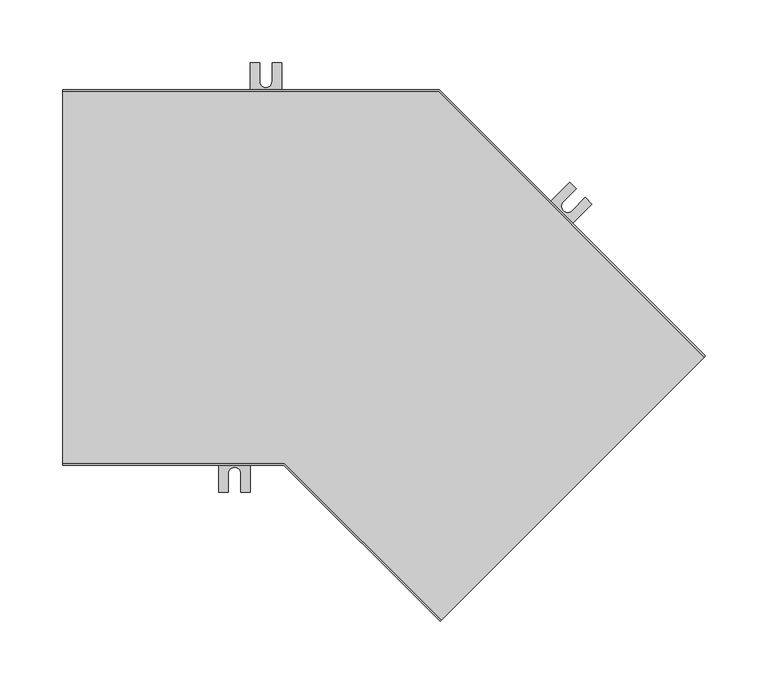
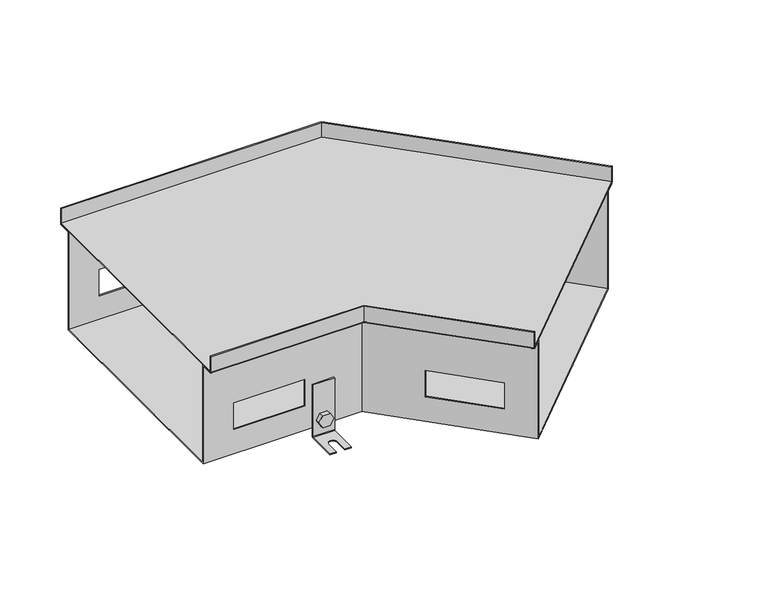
"""IFC4 building model written with IfcOpenShell, lengths in millimetres: proxy geometry, TECHNO_Угловой элемент_KVU : 300_140_135°."""

from ifc_helpers import new_model, si_unit, point, frame, frame_2d, origin, place, context, project, spatial, polyline, circle_curve, ellipse_curve, trimmed, segment, composite_curve, outline, extrude, source, transform, mapped, element, save
from ifc_brep_helpers import plane_surface, cylinder_surface, revolved_surface, advanced_brep


def mechanical_equipment_b19bae29(model_context):
    return source(origin(), model_context, "Body", "SolidModel", [
        extrude(outline(composite_curve([segment(trimmed(circle_curve(frame_2d((0.0, -7.5000001)), 7.5), [point((0.0, -15.0))], [point((0.0, 0.0))], False, "CARTESIAN"), True, "CONTINUOUS"), segment(trimmed(circle_curve(frame_2d((0.0, -7.5000001)), 7.5), [point((0.0, 0.0))], [point((0.0, -15.0))], False, "CARTESIAN"), True, "CONTINUOUS")], self_intersect=False)), frame((361.7404725, -31.0900467, -130.5), z_axis=(0.7071067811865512, 0.7071067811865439, 0.0), x_axis=(0.0, 0.0, 1.0)), (0.0, 0.0, 1.0), 1.5),
        extrude(outline(polyline([(0.0, 0.0), (8.660254, 1e-07), (12.990381, -7.5), (8.660254, -15.0), (0.0, -15.0), (-4.3301271, -7.4999999), (0.0, 0.0)])), frame((345.8586746, -24.1177942, -130.5), z_axis=(0.7071067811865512, 0.7071067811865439, 0.0), x_axis=(0.3535533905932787, -0.3535533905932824, -0.8660254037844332)), (0.0, 0.0, 1.0), 5.1),
        advanced_brep(
        [(364.4274783, -35.4741087, -85.5), (364.4274783, -35.4741087, -148.5), (363.8617928, -36.0397941, -149.3), (340.5272691, -59.3743179, -149.3), (340.5272691, -59.3743179, -150.5), (363.8617928, -36.0397941, -150.5), (365.2760064, -34.6255806, -148.5), (365.2760064, -34.6255806, -85.5), (346.7498087, -17.7964392, -85.5), (347.5983369, -16.947911, -85.5), (347.5983369, -16.947911, -148.5), (346.1841233, -18.3621246, -150.5), (322.8495995, -41.6966484, -150.5), (322.8495995, -41.6966484, -149.3), (346.1841233, -18.3621246, -149.3), (346.7498087, -17.7964392, -148.5), (328.1529004, -46.9999492, -149.3), (338.7595021, -36.3933475, -149.3), (345.8305699, -43.4644153, -149.3), (335.2239682, -54.0710171, -149.3), (335.2239682, -54.0710171, -150.5), (328.1529004, -46.9999492, -150.5), (345.8305699, -43.4644153, -150.5), (338.7595021, -36.3933475, -150.5)],
        [
            (0, 1),
            (1, 2, circle_curve(frame((363.8617928, -36.0397941, -148.5), z_axis=(-0.7071067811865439, 0.7071067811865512, 0.0), x_axis=(-0.7071067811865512, -0.7071067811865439, 0.0)), 0.8)),
            (2, 3),
            (3, 4),
            (4, 5),
            (5, 6, circle_curve(frame((363.8617928, -36.0397941, -148.5), z_axis=(0.7071067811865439, -0.7071067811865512, 0.0), x_axis=(-0.7071067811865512, -0.7071067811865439, 0.0)), 2.0)),
            (6, 7),
            (7, 0),
            (8, 9),
            (9, 10),
            (10, 11, circle_curve(frame((346.1841233, -18.3621246, -148.5), z_axis=(-0.7071067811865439, 0.7071067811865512, 0.0), x_axis=(-0.7071067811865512, -0.7071067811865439, 0.0)), 2.0)),
            (11, 12),
            (12, 13),
            (13, 14),
            (14, 15, circle_curve(frame((346.1841233, -18.3621246, -148.5), z_axis=(0.7071067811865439, -0.7071067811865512, 0.0), x_axis=(-0.7071067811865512, -0.7071067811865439, 0.0)), 0.8)),
            (15, 8),
            (0, 8),
            (15, 1),
            (14, 2),
            (13, 16),
            (16, 17),
            (17, 18, circle_curve(frame((342.295036, -39.9288814, -149.3), z_axis=(0.0, 0.0, -1.0), x_axis=(0.7071067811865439, -0.7071067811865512, 0.0)), 5.0)),
            (18, 19),
            (19, 3),
            (19, 20),
            (20, 4),
            (12, 21),
            (21, 16),
            (20, 22),
            (22, 23, circle_curve(frame((342.295036, -39.9288814, -150.5), z_axis=(0.0, 0.0, 1.0), x_axis=(0.7071067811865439, -0.7071067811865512, 0.0)), 5.0)),
            (23, 21),
            (11, 5),
            (10, 6),
            (9, 7),
            (23, 17),
            (18, 22),
        ],
        [
            plane_surface(frame((364.4274783, -35.4741087, -85.5), z_axis=(0.7071067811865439, -0.7071067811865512, 0.0), x_axis=(0.0, 0.0, -1.0))),
            plane_surface(frame((346.7498087, -17.7964392, -85.5), z_axis=(-0.7071067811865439, 0.7071067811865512, 0.0), x_axis=(0.0, 0.0, 1.0))),
            plane_surface(frame((364.4274783, -35.4741087, -85.5), z_axis=(-0.7071067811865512, -0.7071067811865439, 0.0), x_axis=(-0.7071067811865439, 0.7071067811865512, 0.0))),
            revolved_surface(polyline([(345.61843787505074, -18.92781002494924, -148.5), (363.29610742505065, -36.605479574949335, -148.5)]), (346.1841233, -18.3621246, -148.5), (-0.7071067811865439, 0.7071067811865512, 0.0)),
            plane_surface(frame((363.8617928, -36.0397941, -149.3), z_axis=(0.0, 0.0, 1.0), x_axis=(-0.7071067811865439, 0.7071067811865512, 0.0))),
            plane_surface(frame((340.5272691, -59.3743179, -149.3), z_axis=(-0.7071067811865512, -0.7071067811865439, 0.0), x_axis=(-0.7071067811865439, 0.7071067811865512, 0.0))),
            plane_surface(frame((340.5272691, -59.3743179, -150.5), z_axis=(0.0, 0.0, -1.0), x_axis=(-0.7071067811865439, 0.7071067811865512, 0.0))),
            cylinder_surface(frame((346.1841233, -18.3621246, -148.5), z_axis=(0.7071067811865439, -0.7071067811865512, 0.0), x_axis=(-0.7071067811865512, -0.7071067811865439, 0.0)), 2.0),
            plane_surface(frame((365.2760064, -34.6255806, -148.5), z_axis=(0.7071067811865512, 0.7071067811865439, 0.0), x_axis=(-0.7071067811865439, 0.7071067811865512, 0.0))),
            plane_surface(frame((365.2760064, -34.6255806, -85.5), z_axis=(0.0, 0.0, 1.0), x_axis=(-0.7071067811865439, 0.7071067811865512, 0.0))),
            plane_surface(frame((338.7595021, -36.3933475, -149.3), z_axis=(0.7071067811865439, -0.7071067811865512, 0.0), x_axis=(0.0, 0.0, -1.0))),
            plane_surface(frame((335.2239682, -54.0710171, -149.3), z_axis=(-0.707106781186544, 0.7071067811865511, 0.0), x_axis=(0.0, 0.0, -1.0))),
            revolved_surface(polyline([(345.8305699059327, -43.46441530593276, -149.3), (345.8305699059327, -43.46441530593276, -150.5)]), (342.295036, -39.9288814, -150.5), (0.0, 0.0, 1.0)),
        ],
        [
            (0, [[1, 2, 3, 4, 5, 6, 7, 8]]),
            (1, [[9, 10, 11, 12, 13, 14, 15, 16]]),
            (2, [[-1, 17, -16, 18]]),
            (3, [[-2, -18, -15, 19]]),
            (4, [[-3, -19, -14, 20, 21, 22, 23, 24]]),
            (5, [[-4, -24, 25, 26]]),
            (5, [[-13, 27, 28, -20]]),
            (6, [[-5, -26, 29, 30, 31, -27, -12, 32]]),
            (7, [[-6, -32, -11, 33]]),
            (8, [[-7, -33, -10, 34]]),
            (9, [[-8, -34, -9, -17]]),
            (10, [[35, -21, -28, -31]]),
            (11, [[36, -29, -25, -23]]),
            (12, [[-35, -30, -36, -22]]),
        ],
    ),
        extrude(outline(composite_curve([segment(trimmed(circle_curve(frame_2d((0.0, -7.5)), 7.5), [point((0.0, -15.0))], [point((0.0, 0.0))], False, "CARTESIAN"), True, "CONTINUOUS"), segment(trimmed(circle_curve(frame_2d((0.0, -7.5)), 7.5), [point((0.0, 0.0))], [point((0.0, -15.0))], False, "CARTESIAN"), True, "CONTINUOUS")], self_intersect=False)), frame((383.165808, 46.9038313, -130.5), z_axis=(0.7071067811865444, 0.7071067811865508, 0.0), x_axis=(0.0, 0.0, -1.0)), (0.0, 0.0, 1.0), 1.5),
        extrude(outline(polyline([(0.0, 0.0), (4.330127, -7.5), (0.0, -15.0), (-8.660254, -15.0), (-12.990381, -7.5), (-8.6602541, 0.0), (0.0, 0.0)])), frame((396.5020215, 37.3859944, -130.5), z_axis=(0.7071067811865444, 0.7071067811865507, 0.0), x_axis=(0.35355339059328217, -0.35355339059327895, 0.8660254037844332)), (0.0, 0.0, 1.0), 5.1),
        advanced_brep(
        [(381.5394624, 52.3485535, -85.5), (381.5394624, 52.3485535, -148.5), (382.1051478, 52.9142389, -149.3), (405.4396716, 76.2487627, -149.3), (405.4396716, 76.2487627, -150.5), (382.1051478, 52.9142389, -150.5), (380.6909342, 51.5000254, -148.5), (380.6909342, 51.5000254, -85.5), (399.2171319, 34.670884, -85.5), (398.3686038, 33.8223559, -85.5), (398.3686038, 33.8223559, -148.5), (399.7828173, 35.2365694, -150.5), (423.1173411, 58.5710932, -150.5), (423.1173411, 58.5710932, -149.3), (399.7828173, 35.2365694, -149.3), (399.2171319, 34.670884, -148.5), (417.8140403, 63.8743941, -149.3), (407.2074385, 53.2677923, -149.3), (400.1363707, 60.3388601, -149.3), (410.7429724, 70.9454619, -149.3), (410.7429724, 70.9454619, -150.5), (417.8140403, 63.8743941, -150.5), (400.1363707, 60.3388601, -150.5), (407.2074385, 53.2677923, -150.5)],
        [
            (0, 1),
            (1, 2, circle_curve(frame((382.1051478, 52.9142389, -148.5), z_axis=(0.7071067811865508, -0.7071067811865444, 0.0), x_axis=(0.7071067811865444, 0.7071067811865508, 0.0)), 0.8)),
            (2, 3),
            (3, 4),
            (4, 5),
            (5, 6, circle_curve(frame((382.1051478, 52.9142389, -148.5), z_axis=(-0.7071067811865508, 0.7071067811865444, 0.0), x_axis=(0.7071067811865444, 0.7071067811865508, 0.0)), 2.0)),
            (6, 7),
            (7, 0),
            (8, 9),
            (9, 10),
            (10, 11, circle_curve(frame((399.7828173, 35.2365694, -148.5), z_axis=(0.7071067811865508, -0.7071067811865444, 0.0), x_axis=(0.7071067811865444, 0.7071067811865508, 0.0)), 2.0)),
            (11, 12),
            (12, 13),
            (13, 14),
            (14, 15, circle_curve(frame((399.7828173, 35.2365694, -148.5), z_axis=(-0.7071067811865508, 0.7071067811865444, 0.0), x_axis=(0.7071067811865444, 0.7071067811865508, 0.0)), 0.8)),
            (15, 8),
            (0, 8),
            (15, 1),
            (14, 2),
            (13, 16),
            (16, 17),
            (17, 18, circle_curve(frame((403.6719046, 56.8033262, -149.3), z_axis=(0.0, 0.0, -1.0), x_axis=(-0.7071067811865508, 0.7071067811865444, 0.0)), 5.0)),
            (18, 19),
            (19, 3),
            (19, 20),
            (20, 4),
            (12, 21),
            (21, 16),
            (20, 22),
            (22, 23, circle_curve(frame((403.6719046, 56.8033262, -150.5), z_axis=(0.0, 0.0, 1.0), x_axis=(-0.7071067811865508, 0.7071067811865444, 0.0)), 5.0)),
            (23, 21),
            (11, 5),
            (10, 6),
            (9, 7),
            (23, 17),
            (18, 22),
        ],
        [
            plane_surface(frame((381.5394624, 52.3485535, -85.5), z_axis=(-0.7071067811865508, 0.7071067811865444, 0.0), x_axis=(0.0, 0.0, -1.0))),
            plane_surface(frame((399.2171319, 34.670884, -85.5), z_axis=(0.7071067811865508, -0.7071067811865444, 0.0), x_axis=(0.0, 0.0, 1.0))),
            plane_surface(frame((381.5394624, 52.3485535, -85.5), z_axis=(0.7071067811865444, 0.7071067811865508, 0.0), x_axis=(0.7071067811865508, -0.7071067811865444, 0.0))),
            revolved_surface(polyline([(400.3485027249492, 35.80225482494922, -148.5), (382.6708332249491, 53.47992432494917, -148.5)]), (399.7828173, 35.2365694, -148.5), (0.7071067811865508, -0.7071067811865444, 0.0)),
            plane_surface(frame((382.1051478, 52.9142389, -149.3), z_axis=(0.0, 0.0, 1.0000000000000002), x_axis=(0.7071067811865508, -0.7071067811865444, 0.0))),
            plane_surface(frame((405.4396716, 76.2487627, -149.3), z_axis=(0.7071067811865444, 0.7071067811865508, 0.0), x_axis=(0.7071067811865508, -0.7071067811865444, 0.0))),
            plane_surface(frame((405.4396716, 76.2487627, -150.5), z_axis=(0.0, 0.0, -1.0000000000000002), x_axis=(0.7071067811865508, -0.7071067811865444, 0.0))),
            cylinder_surface(frame((399.7828173, 35.2365694, -148.5), z_axis=(-0.7071067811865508, 0.7071067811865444, 0.0), x_axis=(0.7071067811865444, 0.7071067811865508, 0.0)), 2.0),
            plane_surface(frame((380.6909342, 51.5000254, -148.5), z_axis=(-0.7071067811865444, -0.7071067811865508, 0.0), x_axis=(0.7071067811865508, -0.7071067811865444, 0.0))),
            plane_surface(frame((380.6909342, 51.5000254, -85.5), z_axis=(0.0, 0.0, 1.0000000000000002), x_axis=(0.7071067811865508, -0.7071067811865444, 0.0))),
            plane_surface(frame((407.2074385, 53.2677923, -149.3), z_axis=(-0.7071067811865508, 0.7071067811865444, 0.0), x_axis=(0.0, 0.0, -1.0))),
            plane_surface(frame((410.7429724, 70.9454619, -149.3), z_axis=(0.7071067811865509, -0.7071067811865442, 0.0), x_axis=(0.0, 0.0, -1.0))),
            revolved_surface(polyline([(400.13637069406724, 60.338860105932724, -149.3), (400.13637069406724, 60.338860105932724, -150.5)]), (403.6719046, 56.8033262, -150.5), (0.0, 0.0, 1.0)),
        ],
        [
            (0, [[1, 2, 3, 4, 5, 6, 7, 8]]),
            (1, [[9, 10, 11, 12, 13, 14, 15, 16]]),
            (2, [[-1, 17, -16, 18]]),
            (3, [[-2, -18, -15, 19]]),
            (4, [[-3, -19, -14, 20, 21, 22, 23, 24]]),
            (5, [[-4, -24, 25, 26]]),
            (5, [[-13, 27, 28, -20]]),
            (6, [[-5, -26, 29, 30, 31, -27, -12, 32]]),
            (7, [[-6, -32, -11, 33]]),
            (8, [[-7, -33, -10, 34]]),
            (9, [[-8, -34, -9, -17]]),
            (10, [[35, -21, -28, -31]]),
            (11, [[36, -29, -25, -23]]),
            (12, [[-35, -30, -36, -22]]),
        ],
    ),
        extrude(outline(composite_curve([segment(trimmed(circle_curve(frame_2d((-130.5, 162.5)), 7.5), [point((-130.5, 155.0))], [point((-130.5, 170.0))], False, "CARTESIAN"), True, "CONTINUOUS"), segment(trimmed(circle_curve(frame_2d((-130.5, 162.5)), 7.5), [point((-130.5, 170.0))], [point((-130.5, 155.0))], False, "CARTESIAN"), True, "CONTINUOUS")], self_intersect=False)), frame((0.0, 135.2, 0.0), z_axis=(0.0, 1.0, 0.0), x_axis=(0.0, 0.0, 1.0)), (0.0, 0.0, 1.0), 1.5),
        extrude(outline(polyline([(-130.5, 153.839746), (-138.0, 158.169873), (-138.0, 166.830127), (-130.5, 171.160254), (-123.0, 166.830127), (-123.0, 158.169873), (-130.5, 153.839746)])), frame((0.0, 137.9, 0.0), z_axis=(0.0, 1.0, 0.0), x_axis=(0.0, 0.0, 1.0)), (0.0, 0.0, 1.0), 5.1),
        advanced_brep(
        [(175.0, 137.9, -85.5), (175.0, 136.7, -85.5), (175.0, 136.7, -148.5), (175.0, 138.7, -150.5), (175.0, 171.7, -150.5), (175.0, 171.7, -149.3), (175.0, 138.7, -149.3), (175.0, 137.9, -148.5), (150.0, 137.9, -85.5), (150.0, 137.9, -148.5), (150.0, 138.7, -149.3), (150.0, 171.7, -149.3), (150.0, 171.7, -150.5), (150.0, 138.7, -150.5), (150.0, 136.7, -148.5), (150.0, 136.7, -85.5), (167.5, 171.7, -149.3), (167.5, 156.7, -149.3), (157.5, 156.7, -149.3), (157.5, 171.7, -149.3), (157.5, 171.7, -150.5), (167.5, 171.7, -150.5), (157.5, 156.7, -150.5), (167.5, 156.7, -150.5)],
        [
            (0, 1),
            (1, 2),
            (2, 3, circle_curve(frame((175.0, 138.7, -148.5), z_axis=(1.0, 0.0, 0.0), x_axis=(0.0, 1.0, 0.0)), 2.0)),
            (3, 4),
            (4, 5),
            (5, 6),
            (6, 7, circle_curve(frame((175.0, 138.7, -148.5), z_axis=(-1.0, 0.0, 0.0), x_axis=(0.0, 1.0, 0.0)), 0.8)),
            (7, 0),
            (8, 9),
            (9, 10, circle_curve(frame((150.0, 138.7, -148.5), z_axis=(1.0, 0.0, 0.0), x_axis=(0.0, 1.0, 0.0)), 0.8)),
            (10, 11),
            (11, 12),
            (12, 13),
            (13, 14, circle_curve(frame((150.0, 138.7, -148.5), z_axis=(-1.0, 0.0, 0.0), x_axis=(0.0, 1.0, 0.0)), 2.0)),
            (14, 15),
            (15, 8),
            (7, 9),
            (8, 0),
            (6, 10),
            (5, 16),
            (16, 17),
            (17, 18, circle_curve(frame((162.5, 156.7, -149.3), z_axis=(0.0, 0.0, -1.0), x_axis=(1.0, 0.0, 0.0)), 5.0)),
            (18, 19),
            (19, 11),
            (19, 20),
            (20, 12),
            (4, 21),
            (21, 16),
            (3, 13),
            (20, 22),
            (22, 23, circle_curve(frame((162.5, 156.7, -150.5), z_axis=(0.0, 0.0, 1.0), x_axis=(1.0, 0.0, 0.0)), 5.0)),
            (23, 21),
            (2, 14),
            (1, 15),
            (18, 22),
            (23, 17),
        ],
        [
            plane_surface(frame((175.0, 137.9, -85.5), z_axis=(1.0, 0.0, 0.0), x_axis=(0.0, 0.0, -1.0))),
            plane_surface(frame((150.0, 137.9, -85.5), z_axis=(-1.0, 0.0, 0.0), x_axis=(0.0, 0.0, 1.0))),
            plane_surface(frame((175.0, 137.9, -85.5), z_axis=(0.0, 1.0, 0.0), x_axis=(-1.0, 0.0, 0.0))),
            revolved_surface(polyline([(150.0, 139.5, -148.5), (175.0, 139.5, -148.5)]), (150.0, 138.7, -148.5), (-1.0, 0.0, 0.0)),
            plane_surface(frame((175.0, 138.7, -149.3), z_axis=(0.0, 0.0, 1.0), x_axis=(-1.0, 0.0, 0.0))),
            plane_surface(frame((175.0, 171.7, -149.3), z_axis=(0.0, 1.0, 0.0), x_axis=(-1.0, 0.0, 0.0))),
            plane_surface(frame((175.0, 171.7, -150.5), z_axis=(0.0, 0.0, -1.0), x_axis=(-1.0, 0.0, 0.0))),
            cylinder_surface(frame((150.0, 138.7, -148.5), z_axis=(1.0, 0.0, 0.0), x_axis=(0.0, 1.0, 0.0)), 2.0),
            plane_surface(frame((175.0, 136.7, -148.5), z_axis=(0.0, -1.0, 0.0), x_axis=(-1.0, 0.0, 0.0))),
            plane_surface(frame((175.0, 136.7, -85.5), z_axis=(0.0, 0.0, 1.0), x_axis=(-1.0, 0.0, 0.0))),
            plane_surface(frame((157.5, 156.7, -149.3), z_axis=(1.0, 0.0, 0.0), x_axis=(0.0, 0.0, -1.0))),
            plane_surface(frame((167.5, 171.7, -149.3), z_axis=(-1.0, 0.0, 0.0), x_axis=(0.0, 0.0, -1.0))),
            revolved_surface(polyline([(167.5, 156.7, -149.3), (167.5, 156.7, -150.5)]), (162.5, 156.7, -150.5), (0.0, 0.0, 1.0)),
        ],
        [
            (0, [[1, 2, 3, 4, 5, 6, 7, 8]]),
            (1, [[9, 10, 11, 12, 13, 14, 15, 16]]),
            (2, [[17, -9, 18, -8]]),
            (3, [[19, -10, -17, -7]]),
            (4, [[20, 21, 22, 23, 24, -11, -19, -6]]),
            (5, [[-24, 25, 26, -12]]),
            (5, [[27, 28, -20, -5]]),
            (6, [[29, -13, -26, 30, 31, 32, -27, -4]]),
            (7, [[33, -14, -29, -3]]),
            (8, [[34, -15, -33, -2]]),
            (9, [[-18, -16, -34, -1]]),
            (10, [[-30, -25, -23, 35]]),
            (11, [[-21, -28, -32, 36]]),
            (12, [[-22, -36, -31, -35]]),
        ],
    ),
        extrude(outline(composite_curve([segment(trimmed(circle_curve(frame_2d((-130.5, 137.5)), 7.5), [point((-130.5, 130.0))], [point((-130.5, 145.0))], False, "CARTESIAN"), True, "CONTINUOUS"), segment(trimmed(circle_curve(frame_2d((-130.5, 137.5)), 7.5), [point((-130.5, 145.0))], [point((-130.5, 130.0))], False, "CARTESIAN"), True, "CONTINUOUS")], self_intersect=False)), frame((0.0, -136.7, 0.0), z_axis=(0.0, 1.0, 0.0), x_axis=(0.0, 0.0, 1.0)), (0.0, 0.0, 1.0), 1.5),
        extrude(outline(polyline([(-130.5, 128.839746), (-138.0, 133.169873), (-138.0, 141.830127), (-130.5, 146.160254), (-123.0, 141.830127), (-123.0, 133.169873), (-130.5, 128.839746)])), frame((0.0, -143.0, 0.0), z_axis=(0.0, 1.0, 0.0), x_axis=(0.0, 0.0, 1.0)), (0.0, 0.0, 1.0), 5.1),
        advanced_brep(
        [(150.0, -137.9, -85.5), (150.0, -137.9, -148.5), (150.0, -138.7, -149.3), (150.0, -171.7, -149.3), (150.0, -171.7, -150.5), (150.0, -138.7, -150.5), (150.0, -136.7, -148.5), (150.0, -136.7, -85.5), (125.0, -137.9, -85.5), (125.0, -136.7, -85.5), (125.0, -136.7, -148.5), (125.0, -138.7, -150.5), (125.0, -171.7, -150.5), (125.0, -171.7, -149.3), (125.0, -138.7, -149.3), (125.0, -137.9, -148.5), (132.5, -171.7, -149.3), (132.5, -156.7, -149.3), (142.5, -156.7, -149.3), (142.5, -171.7, -149.3), (142.5, -171.7, -150.5), (132.5, -171.7, -150.5), (142.5, -156.7, -150.5), (132.5, -156.7, -150.5)],
        [
            (0, 1),
            (1, 2, circle_curve(frame((150.0, -138.7, -148.5), z_axis=(-1.0, 0.0, 0.0), x_axis=(0.0, -1.0, 0.0)), 0.8)),
            (2, 3),
            (3, 4),
            (4, 5),
            (5, 6, circle_curve(frame((150.0, -138.7, -148.5), z_axis=(1.0, 0.0, 0.0), x_axis=(0.0, -1.0, 0.0)), 2.0)),
            (6, 7),
            (7, 0),
            (8, 9),
            (9, 10),
            (10, 11, circle_curve(frame((125.0, -138.7, -148.5), z_axis=(-1.0, 0.0, 0.0), x_axis=(0.0, -1.0, 0.0)), 2.0)),
            (11, 12),
            (12, 13),
            (13, 14),
            (14, 15, circle_curve(frame((125.0, -138.7, -148.5), z_axis=(1.0, 0.0, 0.0), x_axis=(0.0, -1.0, 0.0)), 0.8)),
            (15, 8),
            (0, 8),
            (15, 1),
            (14, 2),
            (13, 16),
            (16, 17),
            (17, 18, circle_curve(frame((137.5, -156.7, -149.3), z_axis=(0.0, 0.0, -1.0), x_axis=(1.0, 0.0, 0.0)), 5.0)),
            (18, 19),
            (19, 3),
            (19, 20),
            (20, 4),
            (12, 21),
            (21, 16),
            (20, 22),
            (22, 23, circle_curve(frame((137.5, -156.7, -150.5), z_axis=(0.0, 0.0, 1.0), x_axis=(1.0, 0.0, 0.0)), 5.0)),
            (23, 21),
            (11, 5),
            (10, 6),
            (9, 7),
            (23, 17),
            (18, 22),
        ],
        [
            plane_surface(frame((150.0, -137.9, -85.5), z_axis=(1.0, 0.0, 0.0), x_axis=(0.0, 0.0, -1.0))),
            plane_surface(frame((125.0, -137.9, -85.5), z_axis=(-1.0, 0.0, 0.0), x_axis=(0.0, 0.0, 1.0))),
            plane_surface(frame((150.0, -137.9, -85.5), z_axis=(0.0, -1.0, 0.0), x_axis=(-1.0, 0.0, 0.0))),
            revolved_surface(polyline([(125.0, -139.5, -148.5), (150.0, -139.5, -148.5)]), (125.0, -138.7, -148.5), (-1.0, 0.0, 0.0)),
            plane_surface(frame((150.0, -138.7, -149.3), z_axis=(0.0, 0.0, 1.0), x_axis=(-1.0, 0.0, 0.0))),
            plane_surface(frame((150.0, -171.7, -149.3), z_axis=(0.0, -1.0, 0.0), x_axis=(-1.0, 0.0, 0.0))),
            plane_surface(frame((150.0, -171.7, -150.5), z_axis=(0.0, 0.0, -1.0), x_axis=(-1.0, 0.0, 0.0))),
            cylinder_surface(frame((125.0, -138.7, -148.5), z_axis=(1.0, 0.0, 0.0), x_axis=(0.0, -1.0, 0.0)), 2.0),
            plane_surface(frame((150.0, -136.7, -148.5), z_axis=(0.0, 1.0, 0.0), x_axis=(-1.0, 0.0, 0.0))),
            plane_surface(frame((150.0, -136.7, -85.5), z_axis=(0.0, 0.0, 1.0), x_axis=(-1.0, 0.0, 0.0))),
            plane_surface(frame((132.5, -156.7, -149.3), z_axis=(1.0, 0.0, 0.0), x_axis=(0.0, 0.0, -1.0))),
            plane_surface(frame((142.5, -171.7, -149.3), z_axis=(-1.0, 0.0, 0.0), x_axis=(0.0, 0.0, -1.0))),
            revolved_surface(polyline([(142.5, -156.7, -149.3), (142.5, -156.7, -150.5)]), (137.5, -156.7, -150.5), (0.0, 0.0, 1.0)),
        ],
        [
            (0, [[1, 2, 3, 4, 5, 6, 7, 8]]),
            (1, [[9, 10, 11, 12, 13, 14, 15, 16]]),
            (2, [[-1, 17, -16, 18]]),
            (3, [[-2, -18, -15, 19]]),
            (4, [[-3, -19, -14, 20, 21, 22, 23, 24]]),
            (5, [[-4, -24, 25, 26]]),
            (5, [[-13, 27, 28, -20]]),
            (6, [[-5, -26, 29, 30, 31, -27, -12, 32]]),
            (7, [[-6, -32, -11, 33]]),
            (8, [[-7, -33, -10, 34]]),
            (9, [[-8, -34, -9, -17]]),
            (10, [[35, -21, -28, -31]]),
            (11, [[36, -29, -25, -23]]),
            (12, [[-35, -30, -36, -22]]),
        ],
    ),
        extrude(outline(polyline([(512.990613, -63.6876693), (302.5556349, -274.1226474), (177.2329876, -148.8), (0.0, -148.8), (0.0, 148.8), (300.5029437, 148.8), (512.990613, -63.6876693)])), frame((0.0, 0.0, -19.3), z_axis=(0.0, 0.0, 1.0), x_axis=(1.0, 0.0, 0.0)), (0.0, 0.0, 1.0), 1.2),
        advanced_brep(
        [(301.7071068, -274.9711755, -19.3), (302.5556349, -274.1226474, -20.5), (312.1722871, -264.5059951, -20.5), (312.1722871, -264.5059951, -140.0), (503.3739608, -73.3043215, -140.0), (503.3739608, -73.3043215, -20.5), (512.990613, -63.6876693, -20.5), (513.8391411, -62.8391411, -19.3), (513.8391411, -62.8391411, 0.0), (512.990613, -63.6876693, 0.0), (512.990613, -63.6876693, -19.3), (503.3739608, -73.3043215, -19.3), (502.5254326, -74.1528496, -20.5), (502.5254326, -74.1528496, -138.8), (313.0208153, -263.657467, -138.8), (313.0208153, -263.657467, -20.5), (312.1722871, -264.5059951, -19.3), (302.5556349, -274.1226474, -19.3), (302.5556349, -274.1226474, 0.0), (301.7071068, -274.9711755, 0.0), (0.0, -150.0, -19.3), (0.0, -150.0, 0.0), (0.0, -148.8, 0.0), (0.0, -148.8, -19.3), (0.0, -135.2, -19.3), (0.0, -134.0, -20.5), (0.0, -134.0, -138.8), (0.0, 134.0, -138.8), (0.0, 134.0, -20.5), (0.0, 135.2, -19.3), (0.0, 148.8, -19.3), (0.0, 148.8, 0.0), (0.0, 150.0, 0.0), (0.0, 150.0, -19.3), (0.0, 148.8, -20.5), (0.0, 135.2, -20.5), (0.0, 135.2, -140.0), (0.0, -135.2, -140.0), (0.0, -135.2, -20.5), (0.0, -148.8, -20.5), (177.2329876, -148.8, -20.5), (176.7359313, -150.0, -19.3), (177.2329876, -148.8, 0.0), (177.2329876, -148.8, -19.3), (182.866292, -135.2, -140.0), (182.866292, -135.2, -20.5), (35.0, -135.2, -78.0), (117.0, -135.2, -78.0), (117.0, -135.2, -110.0), (35.0, -135.2, -110.0), (183.3633483, -134.0, -20.5), (183.3633483, -134.0, -138.8), (117.0, -134.0, -78.0), (35.0, -134.0, -78.0), (35.0, -134.0, -110.0), (117.0, -134.0, -110.0), (182.866292, -135.2, -19.3), (229.4407937, -181.7745017, -78.0), (287.4235498, -239.7572578, -78.0), (287.4235498, -239.7572578, -110.0), (229.4407937, -181.7745017, -110.0), (294.8696393, 135.2, -140.0), (294.372583, 134.0, -138.8), (288.2720779, -238.9087297, -78.0), (230.2893219, -180.9259736, -78.0), (230.2893219, -180.9259736, -110.0), (288.2720779, -238.9087297, -110.0), (176.7359313, -150.0, 0.0), (294.8696393, 135.2, -20.5), (478.6252234, -48.5555842, -78.0), (420.6424674, 9.4271719, -78.0), (420.6424674, 9.4271719, -110.0), (478.6252234, -48.5555842, -110.0), (300.5029437, 148.8, -20.5), (301.0, 150.0, -19.3), (301.0, 150.0, 0.0), (300.5029437, 148.8, 0.0), (300.5029437, 148.8, -19.3), (294.8696393, 135.2, -19.3), (294.372583, 134.0, -20.5), (419.7939392, 8.5786438, -78.0), (477.7766953, -49.4041123, -78.0), (477.7766953, -49.4041123, -110.0), (419.7939392, 8.5786438, -110.0), (117.0, 135.2, -78.0), (35.0, 135.2, -78.0), (35.0, 135.2, -110.0), (117.0, 135.2, -110.0), (35.0, 134.0, -78.0), (117.0, 134.0, -78.0), (117.0, 134.0, -110.0), (35.0, 134.0, -110.0)],
        [
            (0, 1, circle_curve(frame((302.5556349, -274.1226474, -19.3), z_axis=(0.7071067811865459, -0.7071067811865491, 0.0), x_axis=(-0.7071067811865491, -0.7071067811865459, 0.0)), 1.2)),
            (1, 2),
            (2, 3),
            (3, 4),
            (4, 5),
            (5, 6),
            (6, 7, circle_curve(frame((512.990613, -63.6876693, -19.3), z_axis=(0.7071067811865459, -0.7071067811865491, 0.0), x_axis=(-0.7071067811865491, -0.7071067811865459, 0.0)), 1.2)),
            (7, 8),
            (8, 9),
            (9, 10),
            (10, 11),
            (11, 12, circle_curve(frame((503.3739608, -73.3043215, -20.5), z_axis=(0.7071067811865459, -0.7071067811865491, 0.0), x_axis=(-0.7071067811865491, -0.7071067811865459, 0.0)), 1.2)),
            (12, 13),
            (13, 14),
            (14, 15),
            (15, 16, circle_curve(frame((312.1722871, -264.5059951, -20.5), z_axis=(0.7071067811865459, -0.7071067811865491, 0.0), x_axis=(-0.7071067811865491, -0.7071067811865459, 0.0)), 1.2)),
            (16, 17),
            (17, 18),
            (18, 19),
            (19, 0),
            (20, 21),
            (21, 22),
            (22, 23),
            (23, 24),
            (24, 25, circle_curve(frame((0.0, -135.2, -20.5), z_axis=(-1.0, 0.0, 0.0), x_axis=(0.0, -1.0, 0.0)), 1.2)),
            (25, 26),
            (26, 27),
            (27, 28),
            (28, 29, circle_curve(frame((0.0, 135.2, -20.5), z_axis=(-1.0, 0.0, 0.0), x_axis=(0.0, -1.0, 0.0)), 1.2)),
            (29, 30),
            (30, 31),
            (31, 32),
            (32, 33),
            (33, 34, circle_curve(frame((0.0, 148.8, -19.3), z_axis=(-1.0, 0.0, 0.0), x_axis=(0.0, -1.0, 0.0)), 1.2)),
            (34, 35),
            (35, 36),
            (36, 37),
            (37, 38),
            (38, 39),
            (39, 20, circle_curve(frame((0.0, -148.8, -19.3), z_axis=(-1.0, 0.0, 0.0), x_axis=(0.0, -1.0, 0.0)), 1.2)),
            (39, 40),
            (40, 41, ellipse_curve(frame((177.2329876, -148.8, -19.3), z_axis=(-0.9238795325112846, 0.3826834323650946, 0.0), x_axis=(0.38268343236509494, 0.9238795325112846, 0.0)), 1.2988706, 1.2)),
            (41, 20),
            (22, 42),
            (42, 43),
            (43, 23),
            (37, 44),
            (44, 45),
            (45, 38),
            (46, 47),
            (47, 48),
            (48, 49),
            (49, 46),
            (25, 50),
            (50, 51),
            (51, 26),
            (52, 53),
            (53, 54),
            (54, 55),
            (55, 52),
            (24, 56),
            (56, 50, ellipse_curve(frame((182.866292, -135.2, -20.5), z_axis=(-0.9238795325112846, 0.3826834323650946, 0.0), x_axis=(0.38268343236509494, 0.9238795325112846, 0.0)), 1.2988706, 1.2)),
            (0, 41),
            (40, 1),
            (45, 2),
            (44, 3),
            (57, 58),
            (58, 59),
            (59, 60),
            (60, 57),
            (36, 61),
            (61, 4),
            (13, 62),
            (62, 27),
            (51, 14),
            (50, 15),
            (63, 64),
            (64, 65),
            (65, 66),
            (66, 63),
            (56, 16),
            (43, 17),
            (42, 18),
            (21, 67),
            (67, 19),
            (61, 68),
            (68, 5),
            (69, 70),
            (70, 71),
            (71, 72),
            (72, 69),
            (68, 35),
            (34, 73),
            (73, 6),
            (73, 74, ellipse_curve(frame((300.5029437, 148.8, -19.3), z_axis=(0.9238795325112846, -0.3826834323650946, 0.0), x_axis=(-0.38268343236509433, -0.9238795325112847, 0.0)), 1.2988706, 1.2)),
            (74, 7),
            (74, 75),
            (75, 8),
            (75, 32),
            (31, 76),
            (76, 9),
            (76, 77),
            (77, 10),
            (77, 30),
            (29, 78),
            (78, 11),
            (78, 79, ellipse_curve(frame((294.8696393, 135.2, -20.5), z_axis=(0.9238795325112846, -0.3826834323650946, 0.0), x_axis=(-0.38268343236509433, -0.9238795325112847, 0.0)), 1.2988706, 1.2)),
            (79, 12),
            (79, 62),
            (80, 81),
            (81, 82),
            (82, 83),
            (83, 80),
            (84, 85),
            (85, 86),
            (86, 87),
            (87, 84),
            (33, 74),
            (28, 79),
            (88, 89),
            (89, 90),
            (90, 91),
            (91, 88),
            (41, 67),
            (46, 53),
            (52, 47),
            (88, 85),
            (84, 89),
            (49, 54),
            (91, 86),
            (48, 55),
            (90, 87),
            (57, 64),
            (63, 58),
            (80, 70),
            (69, 81),
            (66, 59),
            (72, 82),
            (65, 60),
            (71, 83),
        ],
        [
            plane_surface(frame((407.773124, -168.9051583, 0.0), z_axis=(0.7071067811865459, -0.7071067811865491, 0.0), x_axis=(0.0, 0.0, 1.0))),
            plane_surface(frame((0.0, 0.0, 0.0), z_axis=(-1.0, 0.0, 0.0), x_axis=(0.0, 0.0, 1.0))),
            cylinder_surface(frame((238.8679656, -148.8, -19.3), z_axis=(1.0, 0.0, 0.0), x_axis=(0.0, -1.0, 0.0)), 1.2),
            plane_surface(frame((177.2329876, -148.8, -19.3), z_axis=(0.0, 1.0, 0.0), x_axis=(-1.0, 0.0, 0.0))),
            plane_surface(frame((182.866292, -135.2, -20.5), z_axis=(0.0, -1.0, 0.0), x_axis=(-1.0, 0.0, 0.0))),
            plane_surface(frame((183.3633483, -134.0, -138.8), z_axis=(0.0, 1.0, 0.0), x_axis=(-1.0, 0.0, 0.0))),
            cylinder_surface(frame((238.8679656, -135.2, -20.5), z_axis=(1.0, 0.0, 0.0), x_axis=(0.0, -1.0, 0.0)), 1.2),
            cylinder_surface(frame((302.5556349, -274.1226474, -19.3), z_axis=(0.7071067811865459, -0.7071067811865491, 0.0), x_axis=(-0.7071067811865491, -0.7071067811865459, 0.0)), 1.2),
            plane_surface(frame((302.5556349, -274.1226474, -20.5), z_axis=(0.0, 0.0, -1.0), x_axis=(-0.707106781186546, 0.7071067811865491, 0.0))),
            plane_surface(frame((312.1722871, -264.5059951, -20.5), z_axis=(-0.707106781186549, -0.7071067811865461, 0.0), x_axis=(-0.7071067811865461, 0.707106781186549, 0.0))),
            plane_surface(frame((312.1722871, -264.5059951, -140.0), z_axis=(0.0, 0.0, -1.0), x_axis=(-0.7071067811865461, 0.707106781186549, 0.0))),
            plane_surface(frame((502.5254326, -74.1528496, -138.8), z_axis=(0.0, 0.0, 1.0000000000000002), x_axis=(-0.7071067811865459, 0.7071067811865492, 0.0))),
            plane_surface(frame((313.0208153, -263.657467, -138.8), z_axis=(0.7071067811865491, 0.707106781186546, 0.0), x_axis=(-0.707106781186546, 0.7071067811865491, 0.0))),
            cylinder_surface(frame((312.1722871, -264.5059951, -20.5), z_axis=(0.7071067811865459, -0.7071067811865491, 0.0), x_axis=(-0.7071067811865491, -0.7071067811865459, 0.0)), 1.2),
            plane_surface(frame((312.1722871, -264.5059951, -19.3), z_axis=(0.0, 0.0, 1.0), x_axis=(-0.707106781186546, 0.7071067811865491, 0.0))),
            plane_surface(frame((302.5556349, -274.1226474, -19.3), z_axis=(0.7071067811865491, 0.707106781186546, 0.0), x_axis=(-0.707106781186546, 0.7071067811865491, 0.0))),
            plane_surface(frame((302.5556349, -274.1226474, 0.0), z_axis=(0.0, 0.0, 1.0), x_axis=(-0.707106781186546, 0.7071067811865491, 0.0))),
            plane_surface(frame((503.3739608, -73.3043215, -140.0), z_axis=(0.7071067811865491, 0.7071067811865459, 0.0), x_axis=(-0.7071067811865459, 0.7071067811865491, 0.0))),
            plane_surface(frame((503.3739608, -73.3043215, -20.5), z_axis=(0.0, 0.0, -1.0), x_axis=(-0.7071067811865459, 0.7071067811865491, 0.0))),
            cylinder_surface(frame((512.990613, -63.6876693, -19.3), z_axis=(0.7071067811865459, -0.7071067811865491, 0.0), x_axis=(-0.7071067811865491, -0.7071067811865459, 0.0)), 1.2),
            plane_surface(frame((513.8391411, -62.8391411, -19.3), z_axis=(0.707106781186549, 0.707106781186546, 0.0), x_axis=(-0.707106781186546, 0.707106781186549, 0.0))),
            plane_surface(frame((513.8391411, -62.8391411, 0.0), z_axis=(0.0, 0.0, 1.0), x_axis=(-0.707106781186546, 0.7071067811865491, 0.0))),
            plane_surface(frame((512.990613, -63.6876693, 0.0), z_axis=(-0.7071067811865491, -0.7071067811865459, 0.0), x_axis=(-0.7071067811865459, 0.7071067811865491, 0.0))),
            plane_surface(frame((512.990613, -63.6876693, -19.3), z_axis=(0.0, 0.0, 1.0), x_axis=(-0.7071067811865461, 0.707106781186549, 0.0))),
            cylinder_surface(frame((503.3739608, -73.3043215, -20.5), z_axis=(0.7071067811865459, -0.7071067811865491, 0.0), x_axis=(-0.7071067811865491, -0.7071067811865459, 0.0)), 1.2),
            plane_surface(frame((502.5254326, -74.1528496, -20.5), z_axis=(-0.7071067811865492, -0.7071067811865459, 0.0), x_axis=(-0.7071067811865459, 0.7071067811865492, 0.0))),
            plane_surface(frame((294.8696393, 135.2, -140.0), z_axis=(0.0, 1.0, 0.0), x_axis=(-1.0, 0.0, 0.0))),
            cylinder_surface(frame((238.8679656, 148.8, -19.3), z_axis=(1.0, 0.0, 0.0), x_axis=(0.0, -1.0, 0.0)), 1.2),
            plane_surface(frame((301.0, 150.0, -19.3), z_axis=(0.0, 1.0, 0.0), x_axis=(-1.0, 0.0, 0.0))),
            plane_surface(frame((300.5029437, 148.8, 0.0), z_axis=(0.0, -1.0, 0.0), x_axis=(-1.0, 0.0, 0.0))),
            cylinder_surface(frame((238.8679656, 135.2, -20.5), z_axis=(1.0, 0.0, 0.0), x_axis=(0.0, -1.0, 0.0)), 1.2),
            plane_surface(frame((294.372583, 134.0, -20.5), z_axis=(0.0, -1.0, 0.0), x_axis=(-1.0, 0.0, 0.0))),
            plane_surface(frame((176.7359313, -150.0, 0.0), z_axis=(0.0, -1.0, 0.0), x_axis=(-1.0, 0.0, 0.0))),
            plane_surface(frame((301.7071068, -274.9711755, 0.0), z_axis=(-0.7071067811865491, -0.7071067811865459, 0.0), x_axis=(-0.7071067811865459, 0.7071067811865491, 0.0))),
            plane_surface(frame((35.0, 150.0, -78.0), z_axis=(0.0, 0.0, -1.0), x_axis=(0.0, -1.0, 0.0))),
            plane_surface(frame((35.0, 150.0, -110.0), z_axis=(1.0, 0.0, 0.0), x_axis=(0.0, -1.0, 0.0))),
            plane_surface(frame((117.0, 150.0, -110.0), z_axis=(0.0, 0.0, 1.0), x_axis=(0.0, -1.0, 0.0))),
            plane_surface(frame((117.0, 150.0, -78.0), z_axis=(-1.0, 0.0, 0.0), x_axis=(0.0, -1.0, 0.0))),
            plane_surface(frame((431.1076477, 19.8923523, -78.0), z_axis=(0.0, 0.0, -1.0), x_axis=(-0.707106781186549, -0.707106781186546, 0.0))),
            plane_surface(frame((489.0904038, -38.0904038, -78.0), z_axis=(-0.707106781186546, 0.707106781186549, 0.0), x_axis=(-0.707106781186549, -0.707106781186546, 0.0))),
            plane_surface(frame((489.0904038, -38.0904038, -110.0), z_axis=(0.0, 0.0, 1.0), x_axis=(-0.707106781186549, -0.707106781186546, 0.0))),
            plane_surface(frame((431.1076477, 19.8923523, -110.0), z_axis=(0.707106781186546, -0.707106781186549, 0.0), x_axis=(-0.707106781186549, -0.707106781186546, 0.0))),
        ],
        [
            (0, [[1, 2, 3, 4, 5, 6, 7, 8, 9, 10, 11, 12, 13, 14, 15, 16, 17, 18, 19, 20]]),
            (1, [[21, 22, 23, 24, 25, 26, 27, 28, 29, 30, 31, 32, 33, 34, 35, 36, 37, 38, 39, 40]]),
            (2, [[-40, 41, 42, 43]]),
            (3, [[-23, 44, 45, 46]]),
            (4, [[-38, 47, 48, 49], [50, 51, 52, 53]]),
            (5, [[-26, 54, 55, 56], [57, 58, 59, 60]]),
            (6, [[-25, 61, 62, -54]]),
            (7, [[-1, 63, -42, 64]]),
            (8, [[-2, -64, -41, -39, -49, 65]]),
            (9, [[-3, -65, -48, 66], [67, 68, 69, 70]]),
            (10, [[-4, -66, -47, -37, 71, 72]]),
            (11, [[-14, 73, 74, -27, -56, 75]]),
            (12, [[-15, -75, -55, 76], [77, 78, 79, 80]]),
            (13, [[-16, -76, -62, 81]]),
            (14, [[-17, -81, -61, -24, -46, 82]]),
            (15, [[-18, -82, -45, 83]]),
            (16, [[-19, -83, -44, -22, 84, 85]]),
            (17, [[-5, -72, 86, 87], [88, 89, 90, 91]]),
            (18, [[-6, -87, 92, -35, 93, 94]]),
            (19, [[-7, -94, 95, 96]]),
            (20, [[-8, -96, 97, 98]]),
            (21, [[-9, -98, 99, -32, 100, 101]]),
            (22, [[-10, -101, 102, 103]]),
            (23, [[-11, -103, 104, -30, 105, 106]]),
            (24, [[-12, -106, 107, 108]]),
            (25, [[-13, -108, 109, -73], [110, 111, 112, 113]]),
            (26, [[-36, -92, -86, -71], [114, 115, 116, 117]]),
            (27, [[-34, 118, -95, -93]]),
            (28, [[-33, -99, -97, -118]]),
            (29, [[-31, -104, -102, -100]]),
            (30, [[-29, 119, -107, -105]]),
            (31, [[-28, -74, -109, -119], [120, 121, 122, 123]]),
            (32, [[-21, -43, 124, -84]]),
            (33, [[-20, -85, -124, -63]]),
            (34, [[125, -57, 126, -50]]),
            (34, [[127, -114, 128, -120]]),
            (35, [[-125, -53, 129, -58]]),
            (35, [[-127, -123, 130, -115]]),
            (36, [[-129, -52, 131, -59]]),
            (36, [[-130, -122, 132, -116]]),
            (37, [[-131, -51, -126, -60]]),
            (37, [[-132, -121, -128, -117]]),
            (38, [[133, -77, 134, -67]]),
            (38, [[135, -88, 136, -110]]),
            (39, [[-134, -80, 137, -68]]),
            (39, [[-136, -91, 138, -111]]),
            (40, [[-137, -79, 139, -69]]),
            (40, [[-138, -90, 140, -112]]),
            (41, [[-133, -70, -139, -78]]),
            (41, [[-135, -113, -140, -89]]),
        ],
    ),
    ])


if __name__ == "__main__":
    model = new_model("IFC4")
    model_context = context("Model", 3, world=origin())
    ifc_project = project(units=[si_unit("LENGTHUNIT", "METRE", prefix="MILLI")], contexts=[model_context])
    site = spatial("IfcSite", under=ifc_project)
    building = spatial("IfcBuilding", under=site)
    placement = place(None, origin())
    mechanical_equipment_shape = mechanical_equipment_b19bae29(model_context)
    element("IfcBuildingElementProxy", 1, Name="TECHNO_Угловой элемент_KVU : 300_140_135°", ObjectType="TECHNO_Угловой элемент_KVU : 300_140_135°", at=placement, inside=building, context=model_context, shape_type="MappedRepresentation", body=[
        mapped(mechanical_equipment_shape, transform((0.0, 0.0, 0.0), x_axis=(1.0, 0.0, 0.0), y_axis=(0.0, 1.0, 0.0), z_axis=(0.0, 0.0, 1.0))),
    ])
    save(model, "model.ifc")
